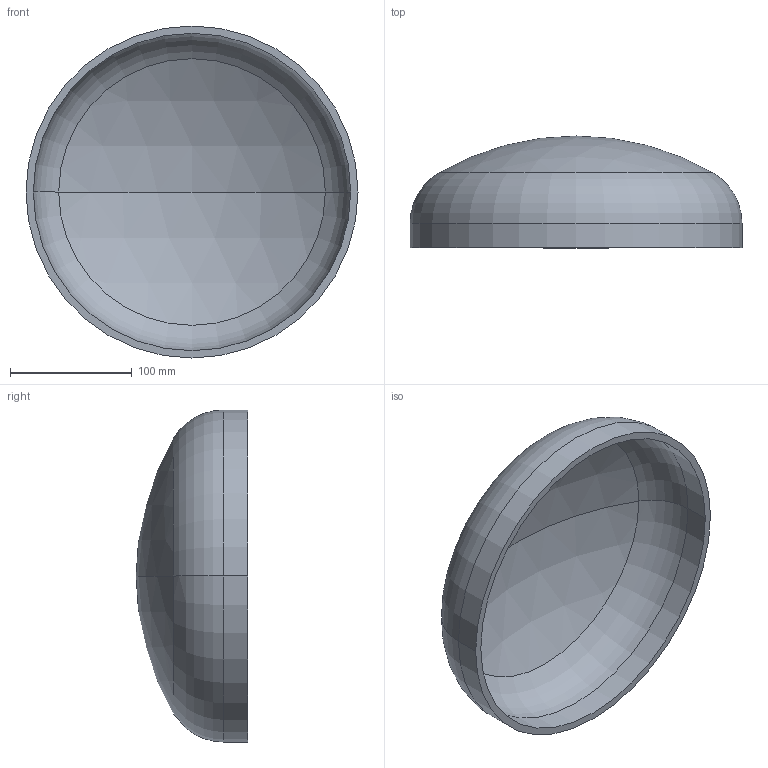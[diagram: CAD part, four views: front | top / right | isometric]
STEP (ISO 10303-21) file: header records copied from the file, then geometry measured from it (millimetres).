
FILE_DESCRIPTION (( 'STEP AP203' ), '1' );
FILE_NAME ('DIN 28013 Korbbogenform_-_Boden DIN 28013 - 273 x 20 - I - s=6.step', '2016-07-01T07:42:54', ( '' ), ( '' ), 'SwSTEP 2.0', 'SolidWorks 2013', '' );
FILE_SCHEMA (( 'CONFIG_CONTROL_DESIGN' ));
Length unit declared in the file: millimetre
Products named in the file (1): DIN 28013 Korbbogenform_-_Boden DIN 28013 - 273 x 20 - I - s=6
Bounding box: 273 x 91.87 x 273 mm (x, y, z)
Volume: 573200.5 mm3; surface area: 196175 mm2
Topology: 1 solids, 1 shells, 13 faces, 24 edges, 14 vertices
Faces by surface type: torus 4, cylinder 4, sphere 4, plane 1
Entity records: 407 total; most frequent: DIRECTION 72, CARTESIAN_POINT 52, ORIENTED_EDGE 48, AXIS2_PLACEMENT_3D 34, EDGE_CURVE 24, CIRCLE 20, EDGE_LOOP 14, VERTEX_POINT 14
